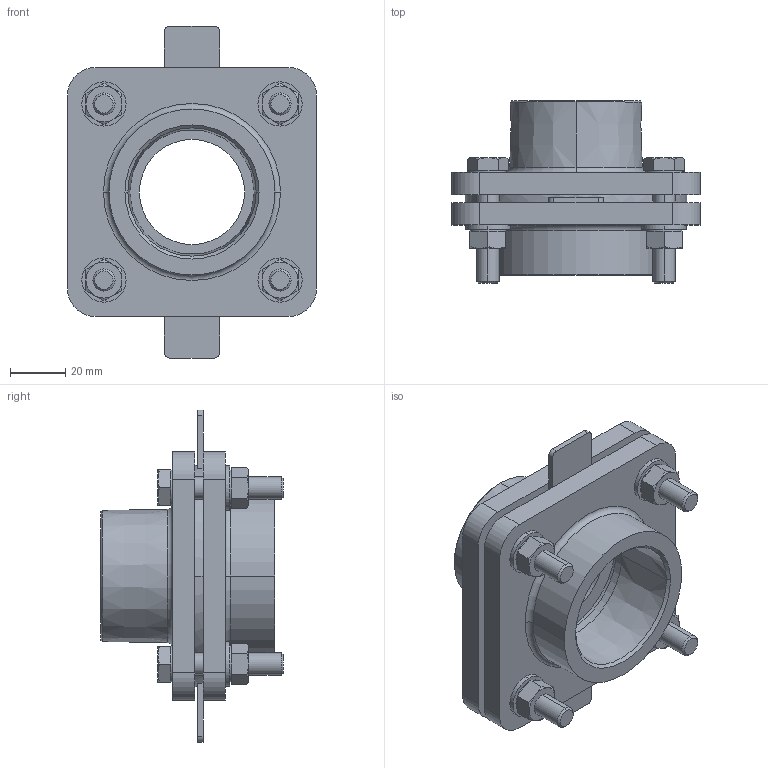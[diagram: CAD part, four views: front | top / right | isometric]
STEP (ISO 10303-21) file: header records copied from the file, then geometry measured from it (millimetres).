
FILE_DESCRIPTION (( 'STEP AP214' ), '1' );
FILE_NAME ('KP_F16-54MF.STEP', '2014-01-20T12:48:01', ( 'robinj' ), ( 'Microsoft' ), 'SwSTEP 2.0', 'SolidWorks 2014', '' );
FILE_SCHEMA (( 'AUTOMOTIVE_DESIGN' ));
Length unit declared in the file: millimetre
Products named in the file (1): KP_F16-54MF
Bounding box: 90 x 66 x 120 mm (x, y, z)
Volume: 166169.5 mm3; surface area: 50571.2 mm2
Topology: 1 solids, 1 shells, 301 faces, 668 edges, 398 vertices
Faces by surface type: plane 147, cylinder 78, cone 64, torus 12
Entity records: 9481 total; most frequent: CARTESIAN_POINT 1912, DIRECTION 1458, ORIENTED_EDGE 1336, EDGE_CURVE 668, AXIS2_PLACEMENT_3D 584, VERTEX_POINT 398, EDGE_LOOP 340, FACE_OUTER_BOUND 301
